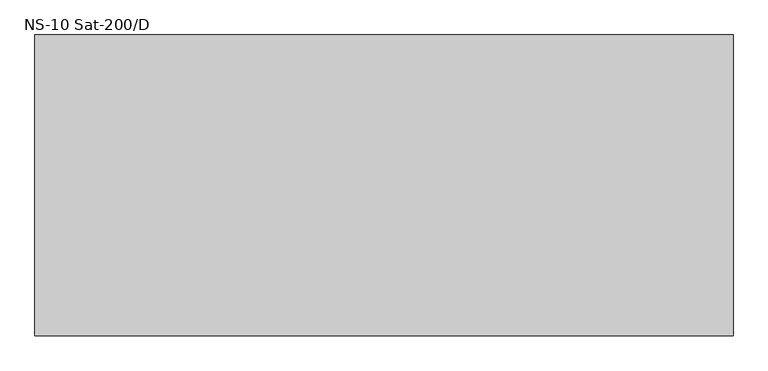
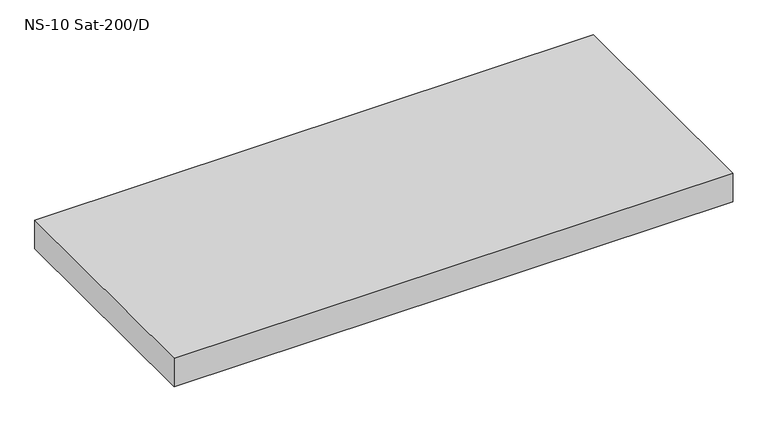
"""IFC4 building model written with IfcOpenShell, lengths in millimetres: unitary equipment geometry, ME_PE_UN_Lipulift-PFDAP_ACO : NS-10 Sat-200/D."""

from ifc_helpers import new_model, si_unit, frame, origin, place, context, project, spatial, polyline, outline, extrude, source, transform, mapped, element, save


def ns_10_sat_200_d_2e75d53a(model_context):
    return source(origin(), model_context, "Body", "SweptSolid", [
        extrude(outline(polyline([(2320.0, 1000.0), (2320.0, -1000.0), (-2320.0, -1000.0), (-2320.0, 1000.0), (2320.0, 1000.0)])), frame((0.0, 0.0, -330.0), z_axis=(0.0, 0.0, 1.0), x_axis=(1.0, 0.0, 0.0)), (0.0, 0.0, 1.0), 250.0),
    ])


if __name__ == "__main__":
    model = new_model("IFC4")
    model_context = context("Model", 3, world=origin())
    ifc_project = project(units=[si_unit("LENGTHUNIT", "METRE", prefix="MILLI")], contexts=[model_context])
    site = spatial("IfcSite", under=ifc_project)
    building = spatial("IfcBuilding", under=site)
    placement = place(None, origin())
    ns_10_sat_200_d_shape = ns_10_sat_200_d_2e75d53a(model_context)
    element("IfcUnitaryEquipment", 1, ObjectType="ME_PE_UN_Lipulift-PFDAP_ACO : NS-10 Sat-200/D", at=placement, inside=building, context=model_context, shape_type="MappedRepresentation", body=[
        mapped(ns_10_sat_200_d_shape, transform((0.0, 0.0, 0.0), x_axis=(1.0, 0.0, 0.0), y_axis=(0.0, 1.0, 0.0), z_axis=(0.0, 0.0, 1.0))),
    ])
    save(model, "model.ifc")
